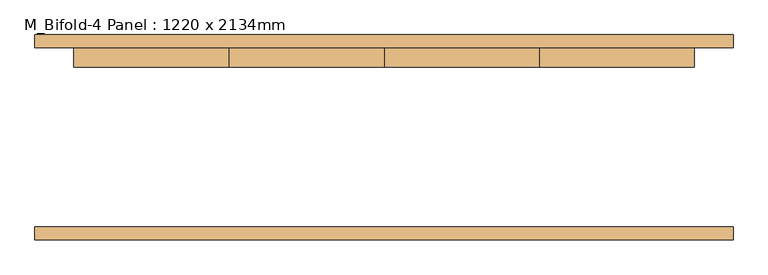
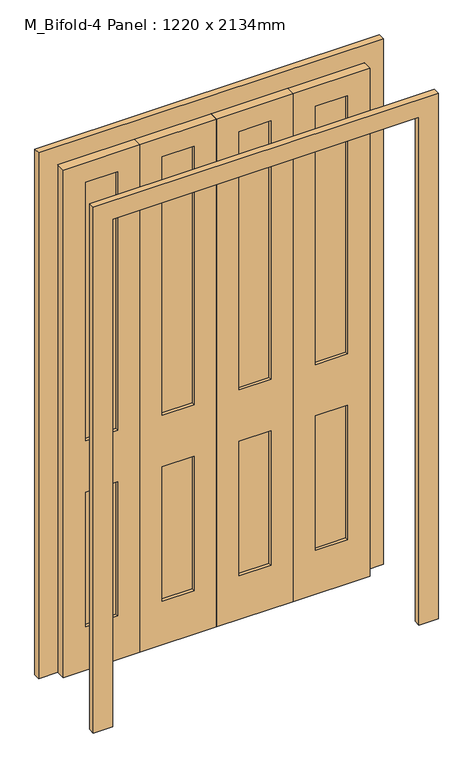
"""IFC4 building model written with IfcOpenShell, lengths in millimetres: door geometry, M_Bifold-4 Panel : 1220 x 2134mm."""

import ifcopenshell
import ifcopenshell.guid

model = None  # the IFC model being written
_history = None  # IfcOwnerHistory: only IFC2X3 demands one
_inside = {}  # id of a spatial element -> (the spatial element, [elements in it])
_under = {}  # id of a project, library or spatial element -> (it, [spatial elements below it])
_declared = {}  # id of a project -> (the project, [libraries it declares])
_typed = {}  # id of a type object -> (the type object, [elements of that type])
_made_of = {}  # id of a material, layer set ... -> (it, [elements and type objects made of it])


def new_model(schema):
    """Start an empty IFC model of exactly this schema.

    Asked for "IFC4X3", IfcOpenShell would pick the latest addendum, in which some entities
    have other attributes; the version numbers below select the first issue.
    IFC2X3 requires an IfcOwnerHistory on every rooted entity: one is made here for all.
    """
    global model, _history
    if schema == "IFC4X3":
        model = ifcopenshell.file(schema_version=(4, 3, 0, 0))
    else:
        model = ifcopenshell.file(schema=schema)
    _inside.clear()
    _under.clear()
    _declared.clear()
    _typed.clear()
    _made_of.clear()
    _history = None
    if model.schema == "IFC2X3":
        org = make("IfcOrganization", Name="unknown")
        user = make(
            "IfcPersonAndOrganization",
            ThePerson=make("IfcPerson", FamilyName="unknown"),
            TheOrganization=org,
        )
        app = make(
            "IfcApplication",
            ApplicationDeveloper=org,
            Version="unknown",
            ApplicationFullName="unknown",
            ApplicationIdentifier="unknown",
        )
        _history = make(
            "IfcOwnerHistory",
            OwningUser=user,
            OwningApplication=app,
            ChangeAction="ADDED",
            CreationDate=0,
        )
    return model


def make(cls, **values):
    """One entity of the class cls with the attributes given. An attribute that is None is left unset."""
    return model.create_entity(
        cls, **{name: value for name, value in values.items() if value is not None}
    )


def rooted(cls, **values):
    """An entity with a GlobalId (a new one), such as an element, a storey or a relation."""
    return make(cls, GlobalId=ifcopenshell.guid.new(), OwnerHistory=_history, **values)


def si_unit(unit_type, name, prefix=None):
    """IfcSIUnit, for example si_unit("LENGTHUNIT", "METRE", prefix="MILLI")."""
    return make("IfcSIUnit", UnitType=unit_type, Prefix=prefix, Name=name)


def assignment(units):
    """IfcUnitAssignment: the units of a project."""
    return None if units is None else make("IfcUnitAssignment", Units=units)


def point(xyz):
    """IfcCartesianPoint."""
    return None if xyz is None else make("IfcCartesianPoint", Coordinates=xyz)


def direction(xyz):
    """IfcDirection."""
    return None if xyz is None else make("IfcDirection", DirectionRatios=xyz)


def frame(location, z_axis=None, x_axis=None):
    """IfcAxis2Placement3D, a coordinate frame: its origin and axes. An axis left out is left unset."""
    return make(
        "IfcAxis2Placement3D",
        Location=point(location),
        Axis=direction(z_axis),
        RefDirection=direction(x_axis),
    )


def origin():
    """The frame at (0, 0, 0) with its axes left unset."""
    return frame((0.0, 0.0, 0.0))


def place(relative_to, where):
    """IfcLocalPlacement: puts the frame where relative to a parent placement (None: the world)."""
    return make(
        "IfcLocalPlacement", PlacementRelTo=relative_to, RelativePlacement=where
    )


def context(
    kind, dimensions, precision=None, world=None, true_north=None, identifier=None
):
    """IfcGeometricRepresentationContext, for example the 3D "Model" context."""
    return make(
        "IfcGeometricRepresentationContext",
        ContextIdentifier=identifier,
        ContextType=kind,
        CoordinateSpaceDimension=dimensions,
        Precision=precision,
        WorldCoordinateSystem=world,
        TrueNorth=true_north,
    )


def project(units=None, contexts=None):
    """IfcProject with its units and contexts."""
    return rooted(
        "IfcProject",
        Name="project",
        RepresentationContexts=contexts,
        UnitsInContext=assignment(units),
    )


def spatial(cls, under=None, at=None, **own):
    """A site, building, storey or space (cls), placed at a placement, below another one or the project."""
    s = rooted(cls, ObjectPlacement=at, **own)
    if under is not None:
        _under.setdefault(under.id(), (under, []))[1].append(s)
    return s


def polyline(points):
    """IfcPolyline through the points."""
    return make("IfcPolyline", Points=[point(p) for p in points])


def outline(outer, holes=None, kind="AREA"):
    """IfcArbitraryClosedProfileDef: a profile drawn as a closed curve; with holes, ...WithVoids."""
    if holes is None:
        return make("IfcArbitraryClosedProfileDef", ProfileType=kind, OuterCurve=outer)
    return make(
        "IfcArbitraryProfileDefWithVoids",
        ProfileType=kind,
        OuterCurve=outer,
        InnerCurves=holes,
    )


def extrude(swept, where, along, depth):
    """IfcExtrudedAreaSolid: the profile swept, set in the frame where, extruded along a direction by depth."""
    return make(
        "IfcExtrudedAreaSolid",
        SweptArea=swept,
        Position=where,
        ExtrudedDirection=direction(along),
        Depth=depth,
    )


def shape(context_of_items, identifier, shape_type, items):
    """IfcShapeRepresentation: the items that make up one representation, for example the "Body"."""
    return make(
        "IfcShapeRepresentation",
        ContextOfItems=context_of_items,
        RepresentationIdentifier=identifier,
        RepresentationType=shape_type,
        Items=items,
    )


def source(mapping_origin, context_of_items, identifier, shape_type, items):
    """IfcRepresentationMap: a shape defined once, which mapped items show again and again."""
    return make(
        "IfcRepresentationMap",
        MappingOrigin=mapping_origin,
        MappedRepresentation=shape(context_of_items, identifier, shape_type, items),
    )


def transform(
    local_origin,
    x_axis=None,
    y_axis=None,
    z_axis=None,
    scale=None,
    scale2=None,
    scale3=None,
    uniform=True,
):
    """IfcCartesianTransformationOperator3D, or its non-uniform kind. x_axis, y_axis, z_axis: its Axis1, 2, 3."""
    if uniform:
        return make(
            "IfcCartesianTransformationOperator3D",
            Axis1=direction(x_axis),
            Axis2=direction(y_axis),
            LocalOrigin=point(local_origin),
            Scale=scale,
            Axis3=direction(z_axis),
        )
    return make(
        "IfcCartesianTransformationOperator3DnonUniform",
        Axis1=direction(x_axis),
        Axis2=direction(y_axis),
        LocalOrigin=point(local_origin),
        Scale=scale,
        Axis3=direction(z_axis),
        Scale2=scale2,
        Scale3=scale3,
    )


def mapped(mapping_source, mapping_target):
    """IfcMappedItem: shows the shape of a source again, moved by a transform."""
    return make(
        "IfcMappedItem", MappingSource=mapping_source, MappingTarget=mapping_target
    )


def made_of(thing, what):
    """Note that an element or type object is made of a material, layer set ...; save() writes the relation."""
    if what is not None:
        _made_of.setdefault(what.id(), (what, []))[1].append(thing)
    return thing


def element(
    cls,
    number,
    at=None,
    inside=None,
    cuts=None,
    type_object=None,
    material=None,
    context=None,
    identifier="Body",
    shape_type=None,
    held_by="IfcProductDefinitionShape",
    body=None,
    shapes=None,
    **own,
):
    """One element of the class cls, such as IfcWall. Its Tag is "e" and its number.

    at: its placement. inside: the storey or other place that contains it. cuts: it is an
    opening in that element (IfcRelVoidsElement). A single representation is given by context,
    identifier, shape_type and body (its items); several are given by shapes. held_by: the class
    of the entity that holds the representations. save() writes the other relations.
    """
    e = rooted(cls, Tag="e%d" % number, ObjectPlacement=at, **own)
    if body is not None:
        shapes = [shape(context, identifier, shape_type, body)]
    if shapes is not None:
        e.Representation = make(held_by, Representations=shapes)
    if inside is not None:
        _inside.setdefault(inside.id(), (inside, []))[1].append(e)
    if cuts is not None:
        rooted(
            "IfcRelVoidsElement", RelatingBuildingElement=cuts, RelatedOpeningElement=e
        )
    if type_object is not None:
        _typed.setdefault(type_object.id(), (type_object, []))[1].append(e)
    return made_of(e, material)


def aggregate(whole, parts):
    """IfcRelAggregates: a whole, such as a stair, and the parts it consists of."""
    return rooted("IfcRelAggregates", RelatingObject=whole, RelatedObjects=parts)


def save(model, path):
    """Write the relations noted so far, then the file.

    IfcRelAggregates (storeys below a building ...), IfcRelContainedInSpatialStructure (elements
    in a storey), IfcRelDefinesByType, IfcRelAssociatesMaterial and IfcRelDeclares: one each for
    every whole, place, type object, material and project.
    """
    for whole, parts in _under.values():
        aggregate(whole, parts)
    for where, things in _inside.values():
        rooted(
            "IfcRelContainedInSpatialStructure",
            RelatedElements=things,
            RelatingStructure=where,
        )
    for kind, things in _typed.values():
        rooted("IfcRelDefinesByType", RelatedObjects=things, RelatingType=kind)
    for what, things in _made_of.values():
        rooted("IfcRelAssociatesMaterial", RelatedObjects=things, RelatingMaterial=what)
    for by, libraries in _declared.values():
        rooted("IfcRelDeclares", RelatingContext=by, RelatedDefinitions=libraries)
    model.write(path)


def m_bifold_4_panel_1220_x_2134mm_1a506c01(model_context):
    return source(origin(), model_context, "Body", "SweptSolid", [
        extrude(outline(polyline([(393.9, 163.5125), (521.1, 163.5125), (521.1, 150.8125), (393.9, 150.8125), (393.9, 163.5125)])), frame((0.0, 0.0, 965.2), z_axis=(0.0, 0.0, 1.0), x_axis=(1.0, 0.0, 0.0)), (0.0, 0.0, 1.0), 1086.25),
        extrude(outline(polyline([(393.9, 163.5125), (521.1, 163.5125), (521.1, 150.8125), (393.9, 150.8125), (393.9, 163.5125)])), frame((0.0, 0.0, 184.15), z_axis=(0.0, 0.0, 1.0), x_axis=(1.0, 0.0, 0.0)), (0.0, 0.0, 1.0), 565.15),
        extrude(outline(polyline([(88.9, 163.5125), (216.1, 163.5125), (216.1, 150.8125), (88.9, 150.8125), (88.9, 163.5125)])), frame((0.0, 0.0, 965.2), z_axis=(0.0, 0.0, 1.0), x_axis=(1.0, 0.0, 0.0)), (0.0, 0.0, 1.0), 1086.25),
        extrude(outline(polyline([(88.9, 163.5125), (216.1, 163.5125), (216.1, 150.8125), (88.9, 150.8125), (88.9, 163.5125)])), frame((0.0, 0.0, 184.15), z_axis=(0.0, 0.0, 1.0), x_axis=(1.0, 0.0, 0.0)), (0.0, 0.0, 1.0), 565.15),
        extrude(outline(polyline([(-216.1, 163.5125), (-88.9, 163.5125), (-88.9, 150.8125), (-216.1, 150.8125), (-216.1, 163.5125)])), frame((0.0, 0.0, 184.15), z_axis=(0.0, 0.0, 1.0), x_axis=(1.0, 0.0, 0.0)), (0.0, 0.0, 1.0), 565.15),
        extrude(outline(polyline([(-216.1, 163.5125), (-88.9, 163.5125), (-88.9, 150.8125), (-216.1, 150.8125), (-216.1, 163.5125)])), frame((0.0, 0.0, 965.2), z_axis=(0.0, 0.0, 1.0), x_axis=(1.0, 0.0, 0.0)), (0.0, 0.0, 1.0), 1086.25),
        extrude(outline(polyline([(-521.1, 163.5125), (-393.9, 163.5125), (-393.9, 150.8125), (-521.1, 150.8125), (-521.1, 163.5125)])), frame((0.0, 0.0, 965.2), z_axis=(0.0, 0.0, 1.0), x_axis=(1.0, 0.0, 0.0)), (0.0, 0.0, 1.0), 1086.25),
        extrude(outline(polyline([(-521.1, 163.5125), (-393.9, 163.5125), (-393.9, 150.8125), (-521.1, 150.8125), (-521.1, 163.5125)])), frame((0.0, 0.0, 184.15), z_axis=(0.0, 0.0, 1.0), x_axis=(1.0, 0.0, 0.0)), (0.0, 0.0, 1.0), 565.15),
        extrude(outline(polyline([(0.0, 686.0), (2210.0, 686.0), (2210.0, -686.0), (0.0, -686.0), (0.0, -610.0), (2134.0, -610.0), (2134.0, 610.0), (0.0, 610.0), (0.0, 686.0)])), frame((0.0, -201.6125, 0.0), z_axis=(0.0, 1.0, 0.0), x_axis=(0.0, 0.0, 1.0)), (0.0, 0.0, 1.0), 25.4),
        extrude(outline(polyline([(0.0, 686.0), (2210.0, 686.0), (2210.0, -686.0), (0.0, -686.0), (0.0, -610.0), (2134.0, -610.0), (2134.0, 610.0), (0.0, 610.0), (0.0, 686.0)])), frame((0.0, 176.2125, 0.0), z_axis=(0.0, 1.0, 0.0), x_axis=(0.0, 0.0, 1.0)), (0.0, 0.0, 1.0), 25.4),
        extrude(outline(polyline([(0.0, -610.0), (0.0, -305.0), (2134.0, -305.0), (2134.0, -610.0), (0.0, -610.0)]), holes=[polyline([(2051.45, -521.1), (2051.45, -393.9), (965.2, -393.9), (965.2, -521.1), (2051.45, -521.1)]), polyline([(749.3, -521.1), (749.3, -393.9), (184.15, -393.9), (184.15, -521.1), (749.3, -521.1)])]), frame((0.0, 138.1125, 0.0), z_axis=(0.0, 1.0, 0.0), x_axis=(0.0, 0.0, 1.0)), (0.0, 0.0, 1.0), 38.1),
        extrude(outline(polyline([(0.0, -305.0), (0.0, 0.0), (2134.0, 0.0), (2134.0, -305.0), (0.0, -305.0)]), holes=[polyline([(2051.45, -216.1), (2051.45, -88.9), (965.2, -88.9), (965.2, -216.1), (2051.45, -216.1)]), polyline([(749.3, -216.1), (749.3, -88.9), (184.15, -88.9), (184.15, -216.1), (749.3, -216.1)])]), frame((0.0, 138.1125, 0.0), z_axis=(0.0, 1.0, 0.0), x_axis=(0.0, 0.0, 1.0)), (0.0, 0.0, 1.0), 38.1),
        extrude(outline(polyline([(0.0, 0.0), (0.0, 305.0), (2134.0, 305.0), (2134.0, 0.0), (0.0, 0.0)]), holes=[polyline([(2051.45, 88.9), (2051.45, 216.1), (965.2, 216.1), (965.2, 88.9), (2051.45, 88.9)]), polyline([(749.3, 88.9), (749.3, 216.1), (184.15, 216.1), (184.15, 88.9), (749.3, 88.9)])]), frame((0.0, 138.1125, 0.0), z_axis=(0.0, 1.0, 0.0), x_axis=(0.0, 0.0, 1.0)), (0.0, 0.0, 1.0), 38.1),
        extrude(outline(polyline([(0.0, 305.0), (0.0, 610.0), (2134.0, 610.0), (2134.0, 305.0), (0.0, 305.0)]), holes=[polyline([(2051.45, 393.9), (2051.45, 521.1), (965.2, 521.1), (965.2, 393.9), (2051.45, 393.9)]), polyline([(749.3, 393.9), (749.3, 521.1), (184.15, 521.1), (184.15, 393.9), (749.3, 393.9)])]), frame((0.0, 138.1125, 0.0), z_axis=(0.0, 1.0, 0.0), x_axis=(0.0, 0.0, 1.0)), (0.0, 0.0, 1.0), 38.1),
    ])


if __name__ == "__main__":
    model = new_model("IFC4")
    model_context = context("Model", 3, world=origin())
    ifc_project = project(units=[si_unit("LENGTHUNIT", "METRE", prefix="MILLI")], contexts=[model_context])
    site = spatial("IfcSite", under=ifc_project)
    building = spatial("IfcBuilding", under=site)
    placement = place(None, origin())
    m_bifold_4_panel_1220_x_2134mm_shape = m_bifold_4_panel_1220_x_2134mm_1a506c01(model_context)
    element("IfcDoor", 1, ObjectType="M_Bifold-4 Panel : 1220 x 2134mm", at=placement, inside=building, context=model_context, shape_type="MappedRepresentation", body=[
        mapped(m_bifold_4_panel_1220_x_2134mm_shape, transform((0.0, 0.0, 0.0), x_axis=(1.0, 0.0, 0.0), y_axis=(0.0, 1.0, 0.0), z_axis=(0.0, 0.0, 1.0))),
    ])
    save(model, "model.ifc")
